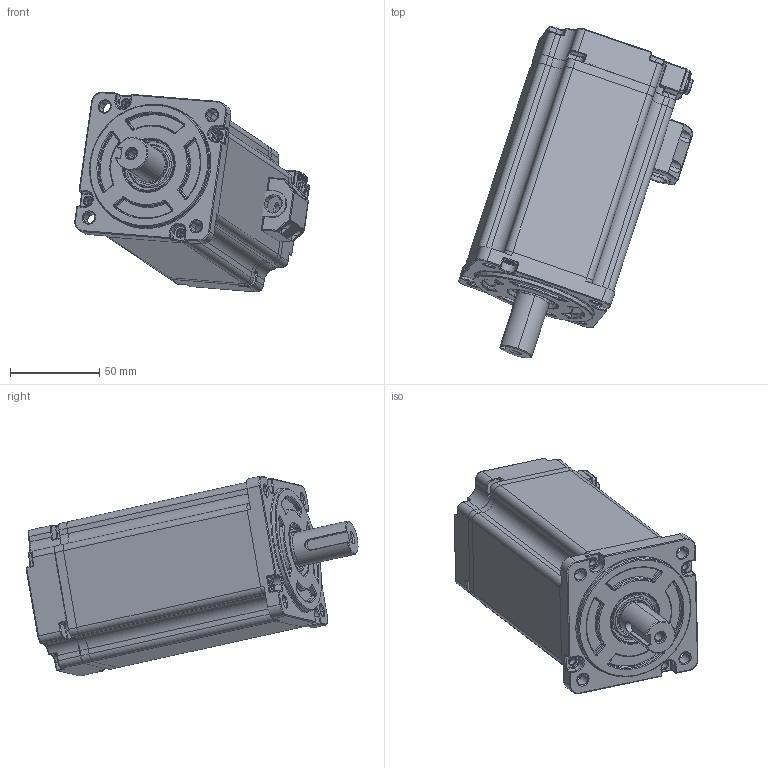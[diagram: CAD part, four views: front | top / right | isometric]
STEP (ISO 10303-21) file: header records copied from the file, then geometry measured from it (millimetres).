
FILE_DESCRIPTION (( 'STEP AP214' ), '1' );
FILE_NAME ('1500w整机（插座式）.STEP', '2023-07-03T02:18:55', ( '' ), ( '' ), 'SwSTEP 2.0', 'SolidWorks 2014', '' );
FILE_SCHEMA (( 'AUTOMOTIVE_DESIGN' ));
Length unit declared in the file: millimetre
Products named in the file (13): 1500w淕儂ㄗ脣釱宒ㄘ; 后轴承 GB／T276-94深沟球轴承6002-2Z_1; E08B106DE1-10.6; 80#陔粣-1200W-拸价陬-腴揤; SC40陔晤鎢ん瑤脣釱sc-mc7p-a6-zhichuxianchazuo; E08B103AE3; 蚐猾 D00B999YF5-TC 20-30-5-1; 低压电机动力压线盖; 80#陔晤鎢ん欶; 80#陔ヶ傷裔 - 萵掛_1; 80#陔綴傷裔_1; 前轴承 GB／T276-94深沟球轴承6004-2Z_1; 80-晤鎢ん欶
Assembly tree (12 placements, depth 3):
  1500w淕儂ㄗ脣釱宒ㄘ
    80#陔粣-1200W-拸价陬-腴揤
    后轴承 GB／T276-94深沟球轴承6002-2Z_1
    前轴承 GB／T276-94深沟球轴承6004-2Z_1
    80#陔綴傷裔_1
    80#陔ヶ傷裔 - 萵掛_1
    低压电机动力压线盖
    蚐猾 D00B999YF5-TC 20-30-5-1
    E08B103AE3
    E08B106DE1-10.6
    80-晤鎢ん欶
      80#陔晤鎢ん欶
      SC40陔晤鎢ん瑤脣釱sc-mc7p-a6-zhichuxianchazuo
Bounding box: 131.08 x 185.58 x 111.74 mm (x, y, z)
Volume: 311985.3 mm3; surface area: 158311.2 mm2
Topology: 20 solids, 20 shells, 3007 faces, 7698 edges, 4667 vertices
Faces by surface type: cylinder 1064, plane 1062, bspline 656, cone 151, torus 50, sphere 24
Entity records: 147352 total; most frequent: CARTESIAN_POINT 48158, ORIENTED_EDGE 15180, DIRECTION 13401, EDGE_CURVE 7590, AXIS2_PLACEMENT_3D 4846, VERTEX_POINT 4667, LINE 3709, VECTOR 3709
